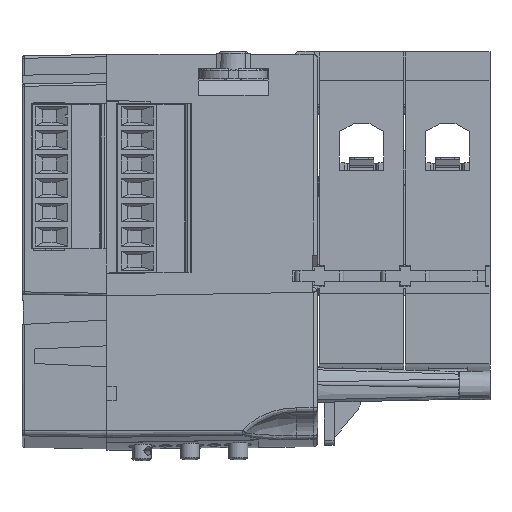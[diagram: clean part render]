
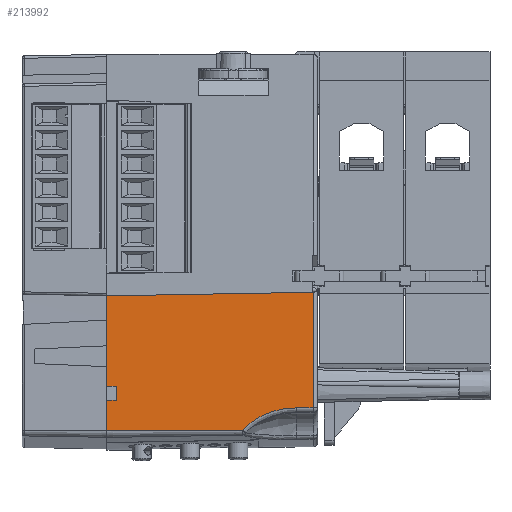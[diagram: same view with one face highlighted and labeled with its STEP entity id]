
A CAD part, left-side view. The second image highlights one B-rep face of the part: STEP entity #213992.
In plain terms, the highlighted planar face has unit normal (-1, -0.018, 0).
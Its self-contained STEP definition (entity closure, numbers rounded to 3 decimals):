
#196263=DIRECTION('',(0.,0.,-1.));
#196264=VECTOR('',#196263,23.942);
#196265=CARTESIAN_POINT('',(-21.753,0.983,
-49.253));
#196266=LINE('',#196265,#196264);
#199998=DIRECTION('',(0.,0.,1.));
#199999=VECTOR('',#199998,6.193);
#200000=CARTESIAN_POINT('',(-22.5,43.75,-77.843));
#200001=LINE('',#200000,#199999);
#200021=DIRECTION('',(-0.017,1.,-0.017));
#200022=VECTOR('',#200021,42.78);
#200023=CARTESIAN_POINT('',(-21.753,0.983,
-49.253));
#200024=LINE('',#200023,#200022);
#202939=DIRECTION('',(0.,0.,1.));
#202940=VECTOR('',#202939,18.65);
#202941=CARTESIAN_POINT('',(-22.5,43.75,-68.65));
#202942=LINE('',#202941,#202940);
#202951=DIRECTION('',(-0.017,1.,0.017));
#202952=VECTOR('',#202951,2.001);
#202953=CARTESIAN_POINT('',(-22.465,41.75,-68.685));
#202954=LINE('',#202953,#202952);
#202959=DIRECTION('',(0.,0.,1.));
#202960=VECTOR('',#202959,2.93);
#202961=CARTESIAN_POINT('',(-22.465,41.75,-71.615));
#202962=LINE('',#202961,#202960);
#202967=DIRECTION('',(0.017,-1.,0.017));
#202968=VECTOR('',#202967,2.001);
#202969=CARTESIAN_POINT('',(-22.5,43.75,-71.65));
#202970=LINE('',#202969,#202968);
#203731=DIRECTION('',(-0.017,1.,0.));
#203732=VECTOR('',#203731,28.158);
#203733=CARTESIAN_POINT('',(-22.008,15.596,
-77.845));
#203734=LINE('',#203733,#203732);
#203752=CARTESIAN_POINT('',(-21.815,4.483,
-73.179));
#203753=CARTESIAN_POINT('',(-21.831,5.443,
-73.175));
#203754=CARTESIAN_POINT('',(-21.863,7.245,
-73.337));
#203755=CARTESIAN_POINT('',(-21.904,9.609,
-73.943));
#203756=CARTESIAN_POINT('',(-21.939,11.584,
-74.77));
#203757=CARTESIAN_POINT('',(-21.967,13.233,
-75.729));
#203758=CARTESIAN_POINT('',(-21.991,14.583,
-76.762));
#203759=CARTESIAN_POINT('',(-22.003,15.295,
-77.476));
#203760=CARTESIAN_POINT('',(-22.008,15.596,
-77.845));
#203766=DIRECTION('',(-0.017,1.,0.005));
#203767=VECTOR('',#203766,3.501);
#203768=CARTESIAN_POINT('',(-21.753,0.983,
-73.196));
#203769=LINE('',#203768,#203767);
#206630=CARTESIAN_POINT('',(-21.753,0.983,
-49.253));
#206631=VERTEX_POINT('',#206630);
#206640=CARTESIAN_POINT('',(-22.5,43.75,-50.));
#206641=VERTEX_POINT('',#206640);
#206646=CARTESIAN_POINT('',(-21.753,0.983,
-73.196));
#206647=VERTEX_POINT('',#206646);
#206648=CARTESIAN_POINT('',(-21.815,4.483,
-73.179));
#206649=VERTEX_POINT('',#206648);
#206650=VERTEX_POINT('',#203760);
#206651=CARTESIAN_POINT('',(-22.5,43.75,-77.843));
#206652=VERTEX_POINT('',#206651);
#206653=CARTESIAN_POINT('',(-22.5,43.75,-71.65));
#206654=VERTEX_POINT('',#206653);
#206655=CARTESIAN_POINT('',(-22.465,41.75,-71.615));
#206656=VERTEX_POINT('',#206655);
#206657=CARTESIAN_POINT('',(-22.465,41.75,-68.685));
#206658=VERTEX_POINT('',#206657);
#206659=CARTESIAN_POINT('',(-22.5,43.75,-68.65));
#206660=VERTEX_POINT('',#206659);
#213967=CARTESIAN_POINT('',(-22.5,43.75,-81.846));
#213968=DIRECTION('',(-1.,-0.017,0.));
#213969=DIRECTION('',(0.,0.,1.));
#213970=AXIS2_PLACEMENT_3D('',#213967,#213968,#213969);
#213971=PLANE('',#213970);
#213973=ORIENTED_EDGE('',*,*,#213972,.F.);
#213974=ORIENTED_EDGE('',*,*,#209318,.T.);
#213976=ORIENTED_EDGE('',*,*,#213975,.T.);
#213978=ORIENTED_EDGE('',*,*,#213977,.T.);
#213980=ORIENTED_EDGE('',*,*,#213979,.T.);
#213981=ORIENTED_EDGE('',*,*,#213952,.T.);
#213983=ORIENTED_EDGE('',*,*,#213982,.T.);
#213985=ORIENTED_EDGE('',*,*,#213984,.T.);
#213987=ORIENTED_EDGE('',*,*,#213986,.T.);
#213989=ORIENTED_EDGE('',*,*,#213988,.T.);
#213990=EDGE_LOOP('',(#213973,#213974,#213976,#213978,#213980,#213981,#213983,
#213985,#213987,#213989));
#213991=FACE_OUTER_BOUND('',#213990,.F.);
#203761=B_SPLINE_CURVE_WITH_KNOTS('',3,(#203752,#203753,#203754,#203755,#203756,
#203757,#203758,#203759,#203760),.UNSPECIFIED.,.F.,.F.,(4,1,1,1,1,1,4),(0.,
0.167,0.333,0.5,0.667,0.833,
1.),.UNSPECIFIED.);
#209318=EDGE_CURVE('',#206631,#206647,#196266,.T.);
#213952=EDGE_CURVE('',#206652,#206654,#200001,.T.);
#213972=EDGE_CURVE('',#206631,#206641,#200024,.T.);
#213975=EDGE_CURVE('',#206647,#206649,#203769,.T.);
#213977=EDGE_CURVE('',#206649,#206650,#203761,.T.);
#213979=EDGE_CURVE('',#206650,#206652,#203734,.T.);
#213982=EDGE_CURVE('',#206654,#206656,#202970,.T.);
#213984=EDGE_CURVE('',#206656,#206658,#202962,.T.);
#213986=EDGE_CURVE('',#206658,#206660,#202954,.T.);
#213988=EDGE_CURVE('',#206660,#206641,#202942,.T.);
#213992=ADVANCED_FACE('',(#213991),#213971,.T.);
